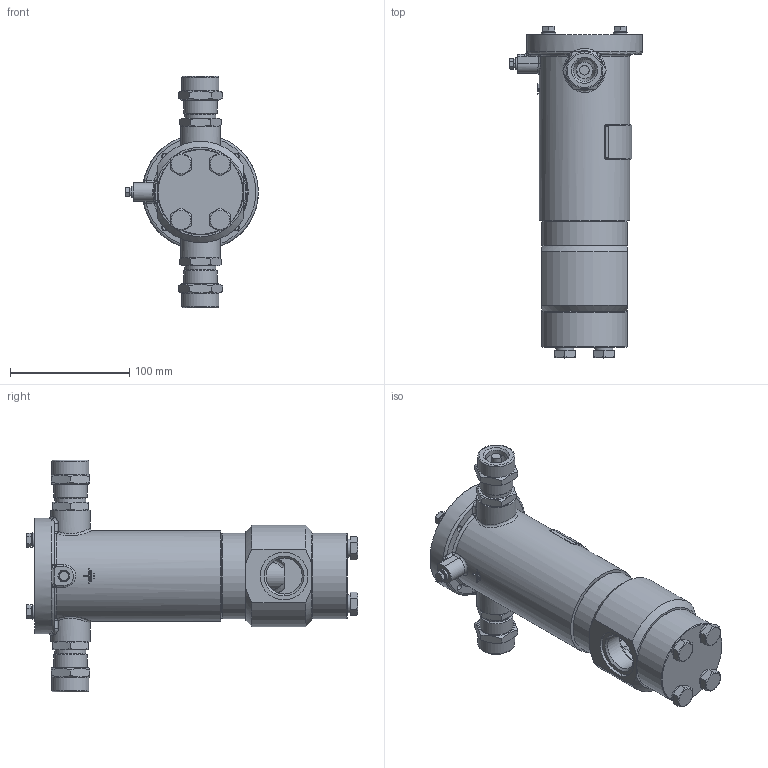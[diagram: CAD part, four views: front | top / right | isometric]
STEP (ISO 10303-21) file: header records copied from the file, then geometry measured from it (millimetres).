
FILE_DESCRIPTION(('STEP AP203'), '1');
FILE_NAME('ÑÅÍÑ-ÏÐ DN20PN250-ÍÎ-G1-0.stp', '2018-10-01T10:05:32', ('Îðëîâ Å.Â.'), ('ÎÎÎ ÍÏÏ Ñåíñîð'), 'ASCON STEP Converter 1.3', 'Kompas 3D', '');
FILE_SCHEMA(('CONFIG_CONTROL_DESIGN','SUPPORT_RESOURCE_SCHEMA'));
Length unit declared in the file: millimetre
Products named in the file (1): 8
Bounding box: 111.2 x 278.1 x 194 mm (x, y, z)
Volume: 779436.9 mm3; surface area: 219417.1 mm2
Topology: 3 solids, 21 shells, 1772 faces, 4740 edges, 3098 vertices
Faces by surface type: cylinder 926, plane 661, cone 120, bspline 27, torus 22, extrusion 16
Full cylindrical faces by diameter (mm): 3.3 x2, 3.5 x2, 4.134 x1, 4.917 x4, 5 x1, 6 x7, 6.1 x1, 6.5 x4, 8 x4, 8.376 x4, 9 x1, 10 x5, 11 x4, 12 x4, 13 x2, 18.632 x2, 20 x4, 22 x2, 22.376 x2, 23.5 x2, 24 x2, 24.5 x2, 26 x4, 26.376 x2, 28 x2, 30 x1, 30.291 x2, 31 x2, 33 x2, 34 x1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
Entity records: 66123 total; most frequent: CARTESIAN_POINT 20643, DIRECTION 9900, ORIENTED_EDGE 9452, EDGE_CURVE 4726, AXIS2_PLACEMENT_3D 3788, VERTEX_POINT 3098, VECTOR 2324, LINE 2308
